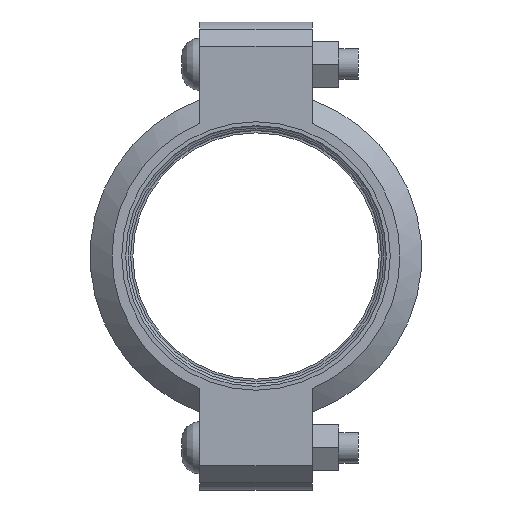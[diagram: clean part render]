
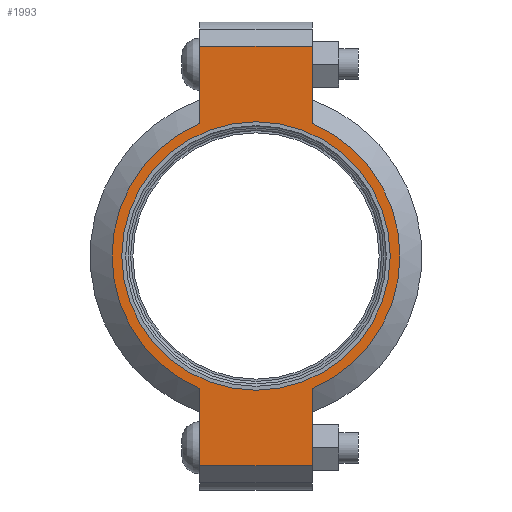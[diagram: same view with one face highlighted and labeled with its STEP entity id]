
A CAD part, left-side view. The second image highlights one B-rep face of the part: STEP entity #1993.
In plain terms, the highlighted planar face has unit normal (-1, 0, 0) as drawn and (0, 0, 1) by its records, which use the part's own axes.
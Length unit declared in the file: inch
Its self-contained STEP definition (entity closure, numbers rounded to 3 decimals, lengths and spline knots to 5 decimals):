
#126=LINE('',#3556,#225);
#134=LINE('',#3592,#233);
#141=LINE('',#3613,#240);
#150=LINE('',#3645,#249);
#151=LINE('',#3649,#250);
#152=LINE('',#3651,#251);
#225=VECTOR('',#2922,0.3937);
#233=VECTOR('',#2938,0.3937);
#240=VECTOR('',#2957,0.3937);
#249=VECTOR('',#2982,0.3937);
#250=VECTOR('',#2987,0.3937);
#251=VECTOR('',#2988,0.3937);
#311=FACE_BOUND('',#581,.T.);
#357=PLANE('',#2358);
#453=FACE_OUTER_BOUND('',#580,.T.);
#580=EDGE_LOOP('',(#1722,#1723,#1724,#1725,#1726,#1727,#1728,#1729));
#581=EDGE_LOOP('',(#1730));
#728=CIRCLE('',#2300,2.75);
#754=CIRCLE('',#2359,2.95);
#755=CIRCLE('',#2360,2.95);
#879=VERTEX_POINT('',#3372);
#922=VERTEX_POINT('',#3553);
#923=VERTEX_POINT('',#3555);
#934=VERTEX_POINT('',#3587);
#935=VERTEX_POINT('',#3591);
#942=VERTEX_POINT('',#3610);
#943=VERTEX_POINT('',#3612);
#953=VERTEX_POINT('',#3648);
#954=VERTEX_POINT('',#3650);
#1116=EDGE_CURVE('',#879,#879,#728,.T.);
#1177=EDGE_CURVE('',#923,#922,#126,.T.);
#1191=EDGE_CURVE('',#935,#934,#134,.T.);
#1201=EDGE_CURVE('',#943,#942,#141,.T.);
#1216=EDGE_CURVE('',#935,#922,#150,.T.);
#1217=EDGE_CURVE('',#934,#943,#754,.T.);
#1218=EDGE_CURVE('',#953,#942,#151,.T.);
#1219=EDGE_CURVE('',#953,#954,#152,.T.);
#1220=EDGE_CURVE('',#954,#923,#755,.T.);
#1722=ORIENTED_EDGE('',*,*,#1216,.F.);
#1723=ORIENTED_EDGE('',*,*,#1191,.T.);
#1724=ORIENTED_EDGE('',*,*,#1217,.T.);
#1725=ORIENTED_EDGE('',*,*,#1201,.T.);
#1726=ORIENTED_EDGE('',*,*,#1218,.F.);
#1727=ORIENTED_EDGE('',*,*,#1219,.T.);
#1728=ORIENTED_EDGE('',*,*,#1220,.T.);
#1729=ORIENTED_EDGE('',*,*,#1177,.T.);
#1730=ORIENTED_EDGE('',*,*,#1116,.T.);
#1993=ADVANCED_FACE('',(#453,#311),#357,.T.);
#2300=AXIS2_PLACEMENT_3D('',#3374,#2798,#2799);
#2358=AXIS2_PLACEMENT_3D('',#3646,#2983,#2984);
#2359=AXIS2_PLACEMENT_3D('',#3647,#2985,#2986);
#2360=AXIS2_PLACEMENT_3D('',#3652,#2989,#2990);
#2798=DIRECTION('center_axis',(0.,0.,-1.));
#2799=DIRECTION('ref_axis',(1.,0.,0.));
#2922=DIRECTION('',(1.,0.,0.));
#2938=DIRECTION('',(-1.,0.,0.));
#2957=DIRECTION('',(-1.,0.,0.));
#2982=DIRECTION('',(0.,-1.,0.));
#2983=DIRECTION('center_axis',(0.,0.,1.));
#2984=DIRECTION('ref_axis',(-1.,0.,0.));
#2985=DIRECTION('center_axis',(0.,0.,1.));
#2986=DIRECTION('ref_axis',(1.,0.,0.));
#2987=DIRECTION('',(0.,1.,0.));
#2988=DIRECTION('',(1.,0.,0.));
#2989=DIRECTION('center_axis',(0.,0.,1.));
#2990=DIRECTION('ref_axis',(1.,0.,0.));
#3372=CARTESIAN_POINT('',(-2.75,0.,1.065));
#3374=CARTESIAN_POINT('Origin',(0.,0.,1.065));
#3553=CARTESIAN_POINT('',(4.295,-1.15,1.065));
#3555=CARTESIAN_POINT('',(2.71662,-1.15,1.065));
#3556=CARTESIAN_POINT('',(4.795,-1.15,1.065));
#3587=CARTESIAN_POINT('',(2.71662,1.15,1.065));
#3591=CARTESIAN_POINT('',(4.295,1.15,1.065));
#3592=CARTESIAN_POINT('',(-4.795,1.15,1.065));
#3610=CARTESIAN_POINT('',(-4.295,1.15,1.065));
#3612=CARTESIAN_POINT('',(-2.71662,1.15,1.065));
#3613=CARTESIAN_POINT('',(-4.795,1.15,1.065));
#3645=CARTESIAN_POINT('',(4.295,-0.575,1.065));
#3646=CARTESIAN_POINT('Origin',(0.,0.,
1.065));
#3647=CARTESIAN_POINT('Origin',(0.,0.,1.065));
#3648=CARTESIAN_POINT('',(-4.295,-1.15,1.065));
#3649=CARTESIAN_POINT('',(-4.295,0.575,1.065));
#3650=CARTESIAN_POINT('',(-2.71662,-1.15,1.065));
#3651=CARTESIAN_POINT('',(4.795,-1.15,1.065));
#3652=CARTESIAN_POINT('Origin',(0.,0.,1.065));
